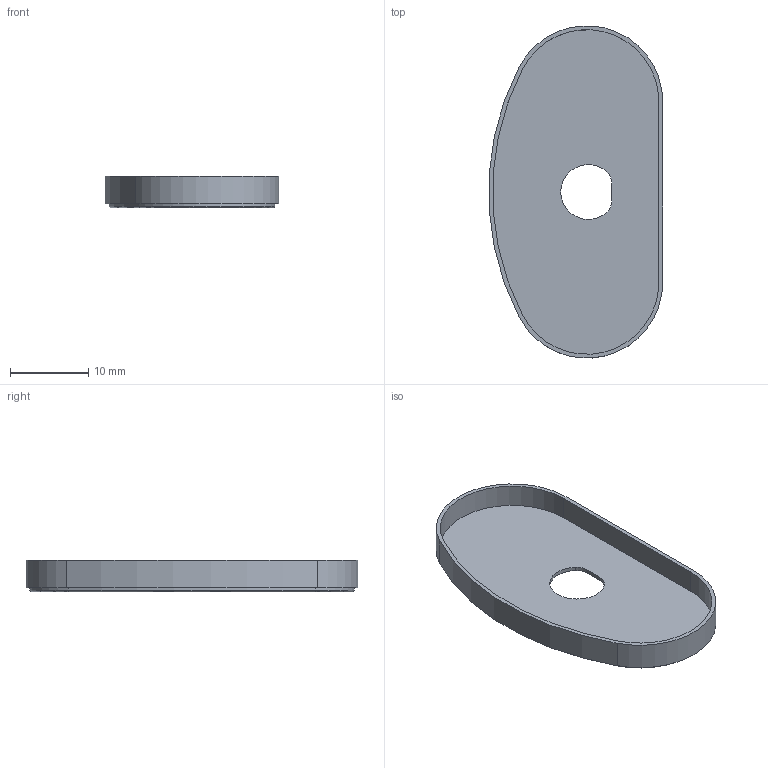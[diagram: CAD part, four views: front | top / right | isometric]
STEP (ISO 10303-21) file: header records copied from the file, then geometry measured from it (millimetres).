
FILE_DESCRIPTION(/* description */ (''),/* implementation_level */ '2;1');
FILE_NAME(/* name */ 'cast_bellow_upper_platform_seal.stp',/* time_stamp */ '2025-08-17T18:20:32+02:00',/* author */ ('MehdiBelhadj'),/* organization */ (''),/* preprocessor_version */ 'ST-DEVELOPER v20.1',/* originating_system */ 'Autodesk Inventor 2026',/* authorisation */ '');
FILE_SCHEMA (('AUTOMOTIVE_DESIGN { 1 0 10303 214 3 1 1 }'));
Length unit declared in the file: millimetre
Products named in the file (1): Balg_Dichtung
Bounding box: 22.15 x 42.35 x 4 mm (x, y, z)
Volume: 640.7 mm3; surface area: 2582.1 mm2
Topology: 1 solids, 1 shells, 105 faces, 236 edges, 144 vertices
Faces by surface type: cylinder 49, torus 30, plane 26
Entity records: 3005 total; most frequent: DIRECTION 596, CARTESIAN_POINT 486, ORIENTED_EDGE 472, AXIS2_PLACEMENT_3D 254, EDGE_CURVE 236, CIRCLE 148, VERTEX_POINT 144, EDGE_LOOP 118
